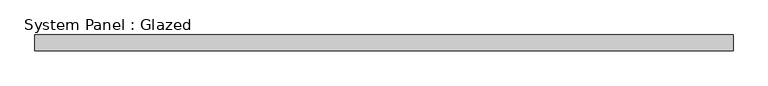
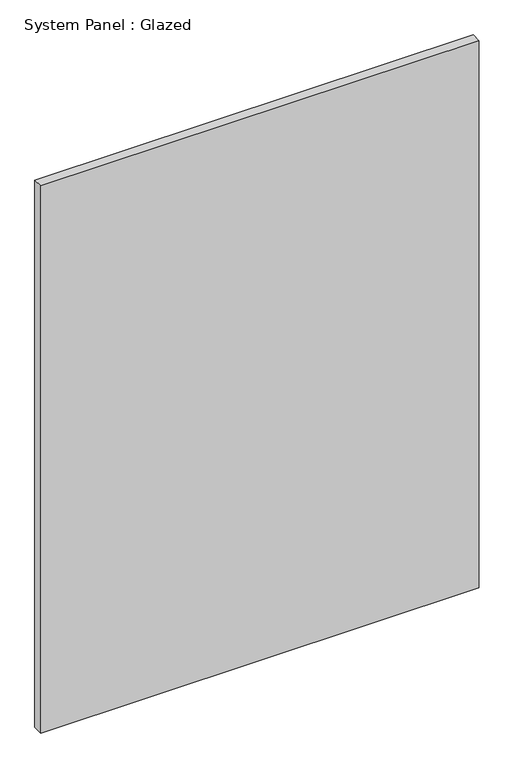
"""IFC4 building model written with IfcOpenShell, lengths in millimetres: plate geometry, System Panel : Glazed."""

from ifc_helpers import new_model, si_unit, origin, origin_with_axes, place, context, project, spatial, polyline, outline, extrude, source, transform, mapped, element, save


def system_panel_glazed_1065fb32(model_context):
    return source(origin(), model_context, "Body", "SweptSolid", [
        extrude(outline(polyline([(549.4999998, 24.5), (-549.4999998, 24.5), (-549.4999998, 49.5), (549.4999998, 49.5), (549.4999998, 24.5)])), origin_with_axes(), (0.0, 0.0, 1.0), 1449.0),
    ])


if __name__ == "__main__":
    model = new_model("IFC4")
    model_context = context("Model", 3, world=origin())
    ifc_project = project(units=[si_unit("LENGTHUNIT", "METRE", prefix="MILLI")], contexts=[model_context])
    site = spatial("IfcSite", under=ifc_project)
    building = spatial("IfcBuilding", under=site)
    placement = place(None, origin())
    system_panel_glazed_shape = system_panel_glazed_1065fb32(model_context)
    element("IfcPlate", 1, ObjectType="System Panel : Glazed", at=placement, inside=building, context=model_context, shape_type="MappedRepresentation", body=[
        mapped(system_panel_glazed_shape, transform((0.0, 0.0, 0.0), x_axis=(1.0, 0.0, 0.0), y_axis=(0.0, 1.0, 0.0), z_axis=(0.0, 0.0, 1.0))),
    ])
    save(model, "model.ifc")
